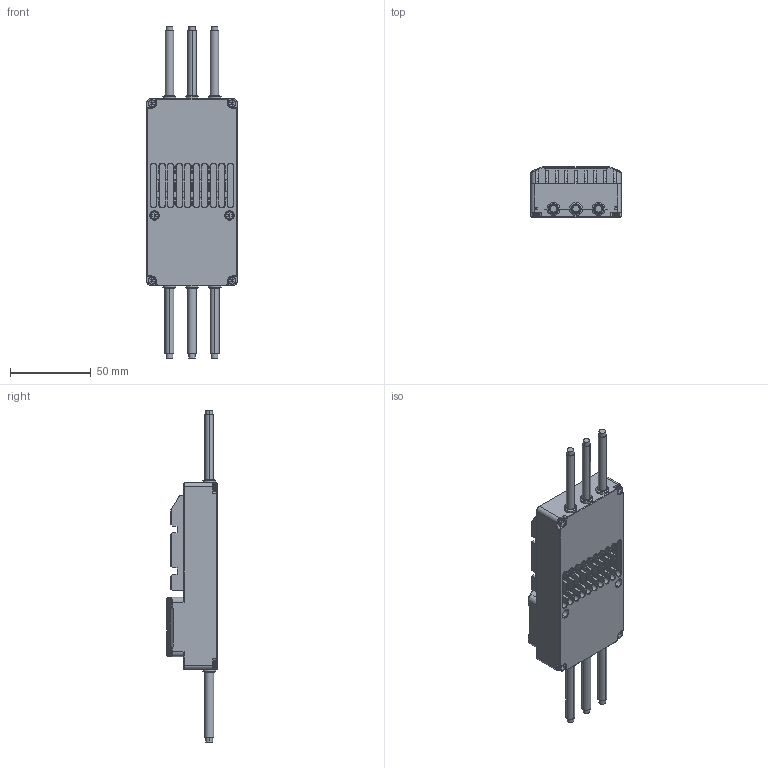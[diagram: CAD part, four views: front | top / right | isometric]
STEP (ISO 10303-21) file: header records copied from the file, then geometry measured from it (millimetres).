
FILE_DESCRIPTION((''),'2;1');
FILE_NAME('171030364BB-HW51170001','2023-12-27T17:37:13',('221126'),(''),'CREO PARAMETRIC BY PTC INC, 2021284','CREO PARAMETRIC BY PTC INC, 2021284','');
FILE_SCHEMA(('AUTOMOTIVE_DESIGN { 1 0 10303 214 1 1 1 1 }'));
Products named in the file (1): 171030364BB-HW51170001
Bounding box: 56 x 31.5 x 206.05 mm (x, y, z)
Volume: 55909.1 mm3; surface area: 66355.4 mm2
Topology: 1 solids, 2 shells, 2924 faces, 7644 edges, 4998 vertices
Faces by surface type: plane 2114, cylinder 529, cone 173, bspline 96, torus 12
Entity records: 132607 total; most frequent: CARTESIAN_POINT 36513, ORIENTED_EDGE 15284, DIRECTION 13875, PRESENTATION_STYLE_ASSIGNMENT 7772, STYLED_ITEM 7646, CURVE_STYLE 7644, EDGE_CURVE 7644, VECTOR 5745
